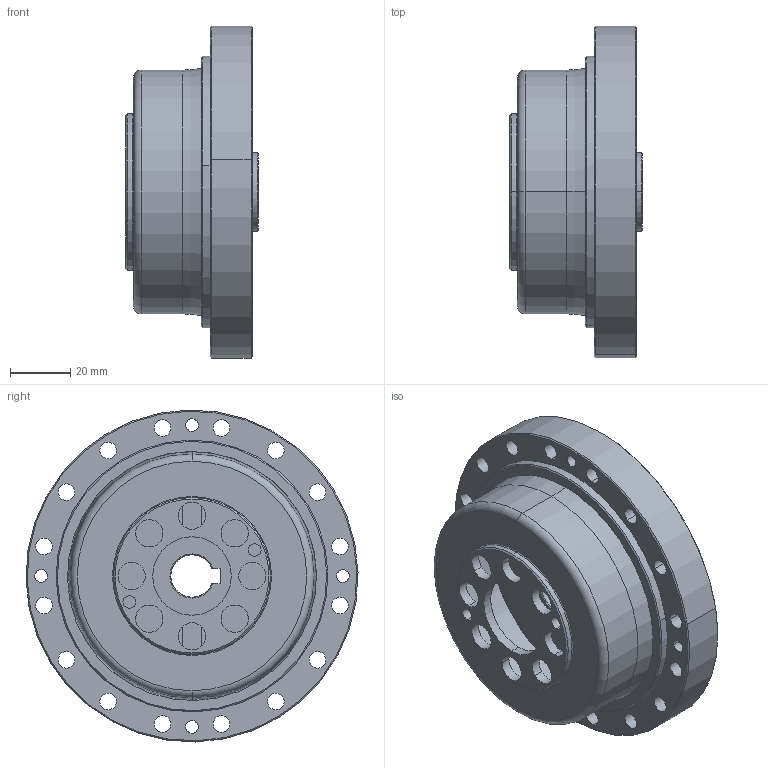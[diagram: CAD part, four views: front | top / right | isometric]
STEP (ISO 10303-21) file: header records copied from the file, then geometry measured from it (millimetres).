
FILE_DESCRIPTION (( 'STEP AP203' ), '1' );
FILE_NAME ('FCG-32-XXX-CO.STEP', '2022-03-04T03:47:10', ( '' ), ( '' ), 'SwSTEP 2.0', 'SolidWorks 2016', '' );
FILE_SCHEMA (( 'CONFIG_CONTROL_DESIGN' ));
Length unit declared in the file: millimetre
Products named in the file (1): FCG-32-XXX-CO
Bounding box: 44 x 109.97 x 109.97 mm (x, y, z)
Volume: 134894.6 mm3; surface area: 96910.4 mm2
Topology: 34 solids, 34 shells, 444 faces, 1195 edges, 784 vertices
Faces by surface type: cylinder 217, plane 116, sphere 46, cone 43, torus 22
Entity records: 13568 total; most frequent: DIRECTION 2603, CARTESIAN_POINT 2324, ORIENTED_EDGE 2160, AXIS2_PLACEMENT_3D 1106, EDGE_CURVE 1080, VERTEX_POINT 715, CIRCLE 661, EDGE_LOOP 537
